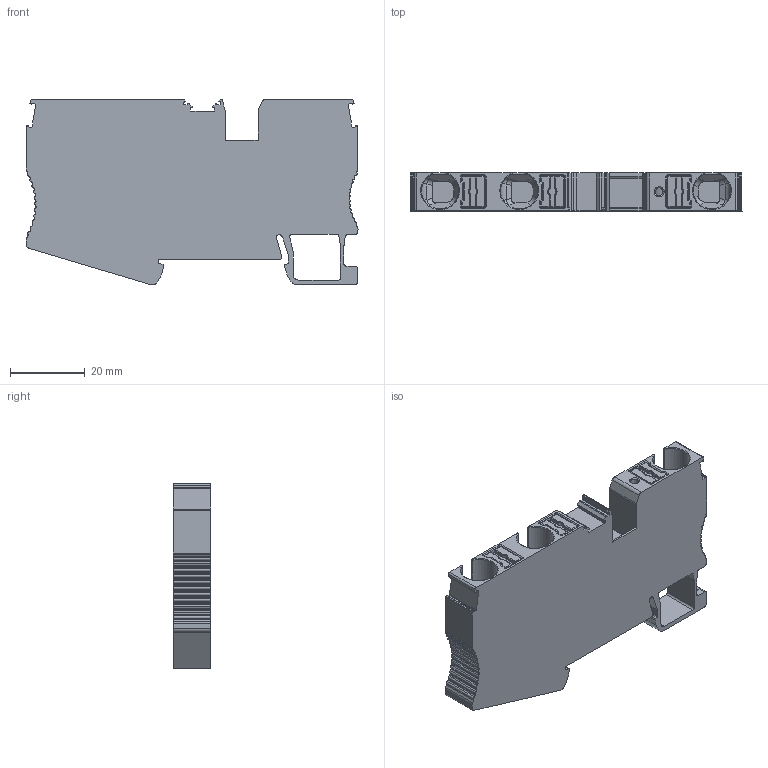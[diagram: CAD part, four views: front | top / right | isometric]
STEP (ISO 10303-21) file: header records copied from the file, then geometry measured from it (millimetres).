
FILE_DESCRIPTION((''),'2;1');
FILE_NAME('UPT-10-1-2_ASSY','2024-03-29T16:24:31',('Administrator'),(''),'CREO PARAMETRIC BY PTC INC, 2018050','CREO PARAMETRIC BY PTC INC, 2018050','');
FILE_SCHEMA(('CONFIG_CONTROL_DESIGN'));
Length unit declared in the file: millimetre
Products named in the file (1): UPT-10-1-2_ASSY
Bounding box: 88.9 x 10.15 x 49.55 mm (x, y, z)
Volume: 32449.5 mm3; surface area: 14121 mm2
Topology: 1 solids, 2 shells, 864 faces, 2415 edges, 1526 vertices
Faces by surface type: plane 380, cylinder 338, sphere 45, cone 42, extrusion 24, torus 20, bspline 15
Entity records: 29019 total; most frequent: CARTESIAN_POINT 6952, ORIENTED_EDGE 4740, DIRECTION 4529, EDGE_CURVE 2370, AXIS2_PLACEMENT_3D 1552, VERTEX_POINT 1526, VECTOR 1425, LINE 1401
